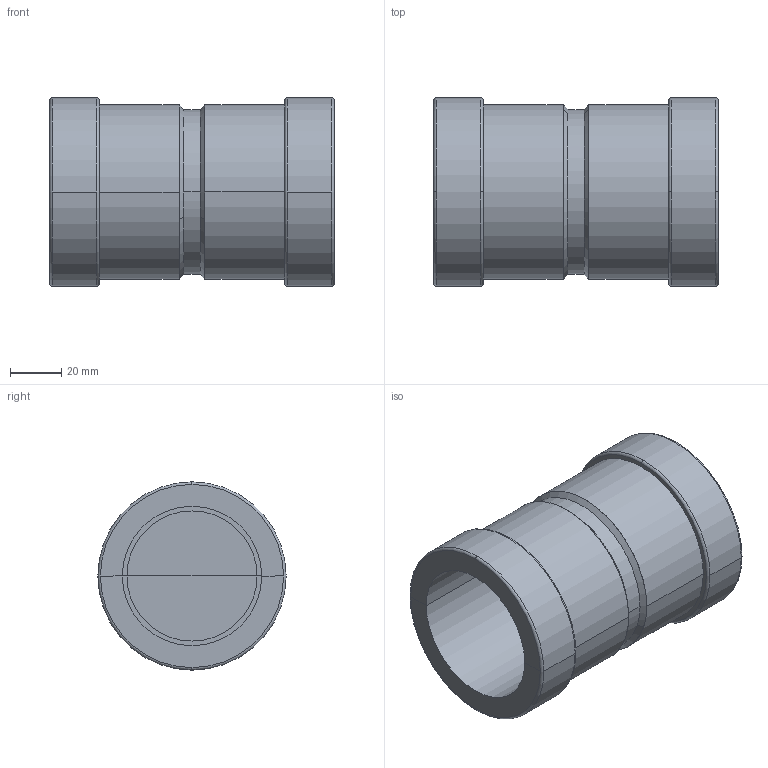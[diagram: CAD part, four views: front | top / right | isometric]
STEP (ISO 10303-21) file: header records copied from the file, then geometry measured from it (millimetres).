
FILE_DESCRIPTION (( 'STEP AP203' ), '1' );
FILE_NAME ('Viega_MegaPress FKM_Coupling, Transition 5915ZL - 2in.STEP', '2025-02-21T22:23:19', ( '' ), ( '' ), 'SwSTEP 2.0', 'SolidWorks 2020', '' );
FILE_SCHEMA (( 'CONFIG_CONTROL_DESIGN' ));
Length unit declared in the file: millimetre
Products named in the file (1): Viega_MegaPress FKM_Coupling, Transition 5915ZL - 2in
Bounding box: 111 x 73.5 x 73.5 mm (x, y, z)
Volume: 210221.7 mm3; surface area: 66229.8 mm2
Topology: 5 solids, 5 shells, 50 faces, 116 edges, 72 vertices
Faces by surface type: plane 20, cylinder 18, torus 8, cone 4
Entity records: 1529 total; most frequent: DIRECTION 298, CARTESIAN_POINT 239, ORIENTED_EDGE 232, AXIS2_PLACEMENT_3D 131, EDGE_CURVE 116, CIRCLE 80, VERTEX_POINT 72, FACE_OUTER_BOUND 50
